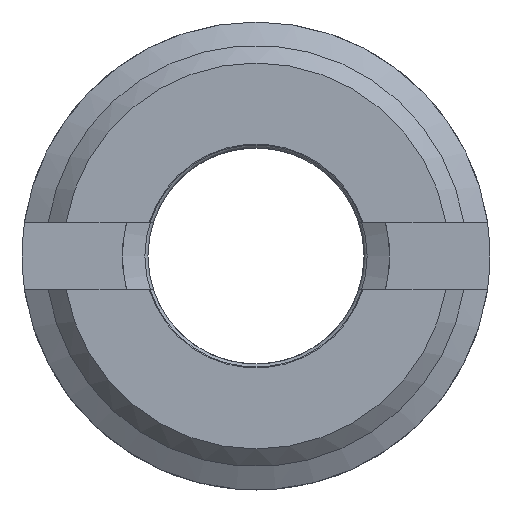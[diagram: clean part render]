
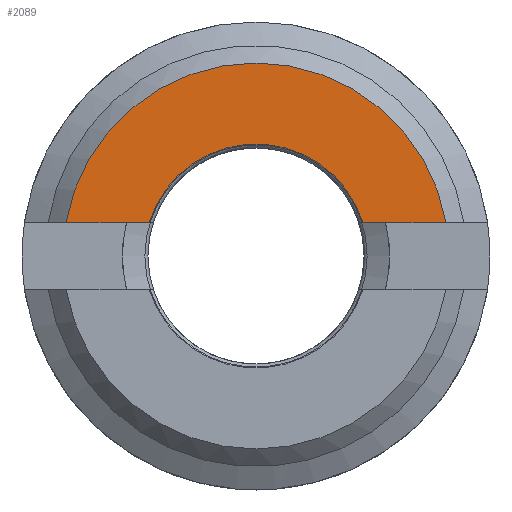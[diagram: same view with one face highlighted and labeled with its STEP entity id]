
A CAD part, front view. The second image highlights one B-rep face of the part: STEP entity #2089.
In plain terms, the highlighted planar face has unit normal (0, -1, 0).
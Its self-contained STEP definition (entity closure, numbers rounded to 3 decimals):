
#17=PLANE('',#2423);
#187=LINE('',#3967,#282);
#188=LINE('',#3969,#283);
#282=VECTOR('',#3124,1000.);
#283=VECTOR('',#3125,1000.);
#448=FACE_OUTER_BOUND('',#573,.T.);
#573=EDGE_LOOP('',(#1845,#1846,#1847,#1848));
#779=CIRCLE('',#2420,5.773);
#781=CIRCLE('',#2424,3.35);
#974=VERTEX_POINT('',#3942);
#975=VERTEX_POINT('',#3943);
#978=VERTEX_POINT('',#3966);
#979=VERTEX_POINT('',#3968);
#1276=EDGE_CURVE('',#974,#975,#779,.T.);
#1282=EDGE_CURVE('',#974,#978,#187,.T.);
#1283=EDGE_CURVE('',#979,#975,#188,.T.);
#1284=EDGE_CURVE('',#978,#979,#781,.T.);
#1845=ORIENTED_EDGE('',*,*,#1282,.F.);
#1846=ORIENTED_EDGE('',*,*,#1276,.T.);
#1847=ORIENTED_EDGE('',*,*,#1283,.F.);
#1848=ORIENTED_EDGE('',*,*,#1284,.F.);
#2089=ADVANCED_FACE('',(#448),#17,.T.);
#2420=AXIS2_PLACEMENT_3D('',#3944,#3116,#3117);
#2423=AXIS2_PLACEMENT_3D('',#3965,#3122,#3123);
#2424=AXIS2_PLACEMENT_3D('',#3970,#3126,#3127);
#3116=DIRECTION('center_axis',(0.,-1.,0.));
#3117=DIRECTION('ref_axis',(0.,0.,-1.));
#3122=DIRECTION('center_axis',(0.,-1.,0.));
#3123=DIRECTION('ref_axis',(0.,0.,-1.));
#3124=DIRECTION('',(-1.,0.,0.));
#3125=DIRECTION('',(-1.,0.,0.));
#3126=DIRECTION('center_axis',(0.,-1.,0.));
#3127=DIRECTION('ref_axis',(0.,0.,-1.));
#3942=CARTESIAN_POINT('',(122.17,148.512,1.));
#3943=CARTESIAN_POINT('',(110.799,148.512,1.));
#3944=CARTESIAN_POINT('Origin',(116.485,148.512,0.));
#3965=CARTESIAN_POINT('Origin',(112.291,148.512,0.));
#3966=CARTESIAN_POINT('',(119.682,148.512,1.));
#3967=CARTESIAN_POINT('',(107.485,148.512,1.));
#3968=CARTESIAN_POINT('',(113.287,148.512,1.));
#3969=CARTESIAN_POINT('',(107.485,148.512,1.));
#3970=CARTESIAN_POINT('Origin',(116.485,148.512,0.));
